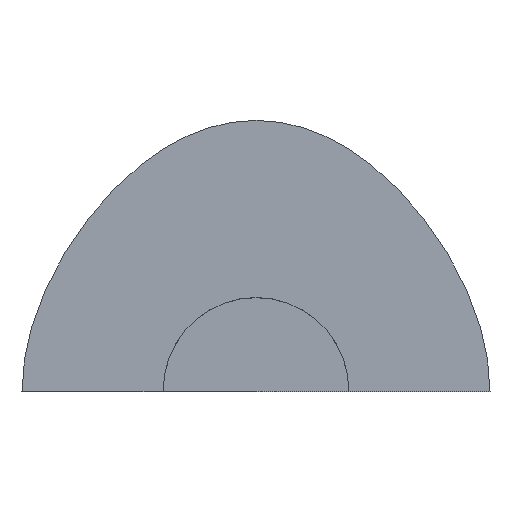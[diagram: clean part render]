
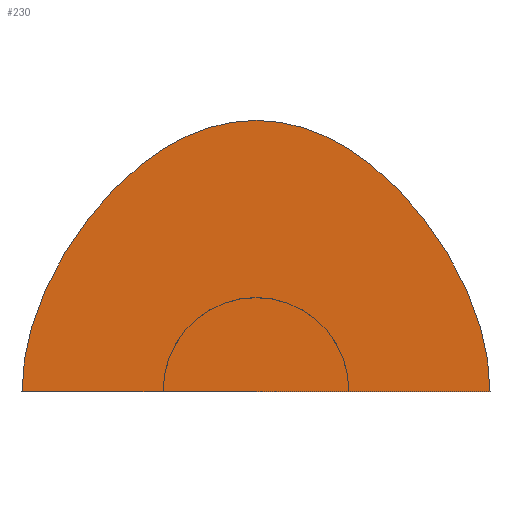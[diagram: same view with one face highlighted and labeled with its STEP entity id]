
A CAD part, top view. The second image highlights one B-rep face of the part: STEP entity #230.
In plain terms, the highlighted planar face has unit normal (0, 0, 1).
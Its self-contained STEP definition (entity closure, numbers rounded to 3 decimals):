
#193=CARTESIAN_POINT('Axis2P3D Location',(0.,59.354,0.)) ;
#198=CARTESIAN_POINT('Line Origine',(0.,0.,0.)) ;
#202=CARTESIAN_POINT('Vertex',(-126.,0.,0.)) ;
#204=CARTESIAN_POINT('Vertex',(126.,0.,0.)) ;
#208=CARTESIAN_POINT('Control Point',(0.,146.,0.)) ;
#209=CARTESIAN_POINT('Control Point',(38.57,146.,0.)) ;
#210=CARTESIAN_POINT('Control Point',(74.892,123.964,0.)) ;
#211=CARTESIAN_POINT('Control Point',(108.964,79.892,0.)) ;
#212=CARTESIAN_POINT('Control Point',(126.,38.57,0.)) ;
#213=CARTESIAN_POINT('Control Point',(126.,0.,0.)) ;
#214=CARTESIAN_POINT('Vertex',(0.,146.,0.)) ;
#218=CARTESIAN_POINT('Control Point',(0.,146.,0.)) ;
#219=CARTESIAN_POINT('Control Point',(-38.57,146.,0.)) ;
#220=CARTESIAN_POINT('Control Point',(-74.892,123.964,0.)) ;
#221=CARTESIAN_POINT('Control Point',(-108.964,79.892,0.)) ;
#222=CARTESIAN_POINT('Control Point',(-126.,38.57,0.)) ;
#223=CARTESIAN_POINT('Control Point',(-126.,0.,0.)) ;
#194=DIRECTION('Axis2P3D Direction',(0.,0.,1.)) ;
#195=DIRECTION('Axis2P3D XDirection',(1.,0.,0.)) ;
#199=DIRECTION('Vector Direction',(1.,0.,0.)) ;
#196=AXIS2_PLACEMENT_3D('Plane Axis2P3D',#193,#194,#195) ;
#226=ORIENTED_EDGE('',*,*,#206,.T.) ;
#227=ORIENTED_EDGE('',*,*,#216,.T.) ;
#228=ORIENTED_EDGE('',*,*,#224,.T.) ;
#200=VECTOR('Line Direction',#199,1.) ;
#230=ADVANCED_FACE('Fill.1',(#229),#197,.T.) ;
#207=B_SPLINE_CURVE_WITH_KNOTS('',5,(#208,#209,#210,#211,#212,#213),.UNSPECIFIED.,.F.,.U.,(6,6),(0.,192.852),.UNSPECIFIED.) ;
#217=B_SPLINE_CURVE_WITH_KNOTS('',5,(#218,#219,#220,#221,#222,#223),.UNSPECIFIED.,.F.,.U.,(6,6),(0.,192.852),.UNSPECIFIED.) ;
#206=EDGE_CURVE('',#203,#205,#201,.T.) ;
#216=EDGE_CURVE('',#205,#215,#207,.F.) ;
#224=EDGE_CURVE('',#215,#203,#217,.T.) ;
#225=EDGE_LOOP('',(#226,#227,#228)) ;
#229=FACE_OUTER_BOUND('',#225,.T.) ;
#201=LINE('Line',#198,#200) ;
#197=PLANE('',#196) ;
#203=VERTEX_POINT('',#202) ;
#205=VERTEX_POINT('',#204) ;
#215=VERTEX_POINT('',#214) ;
